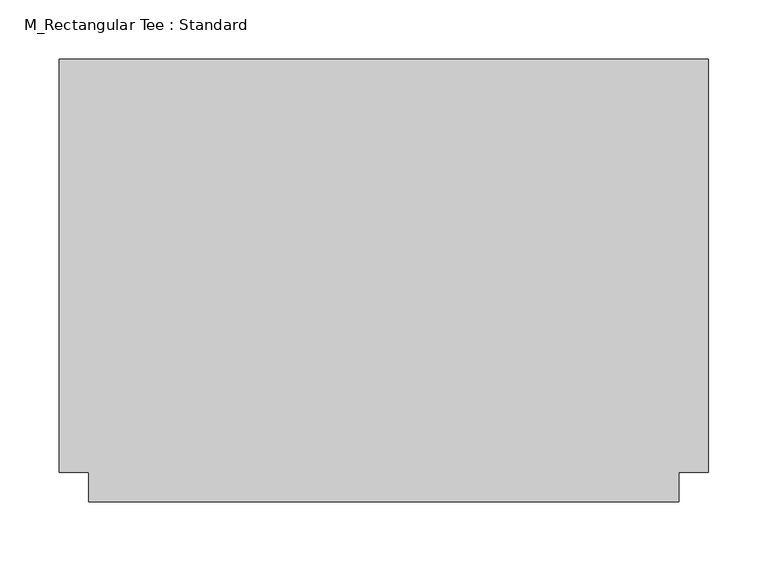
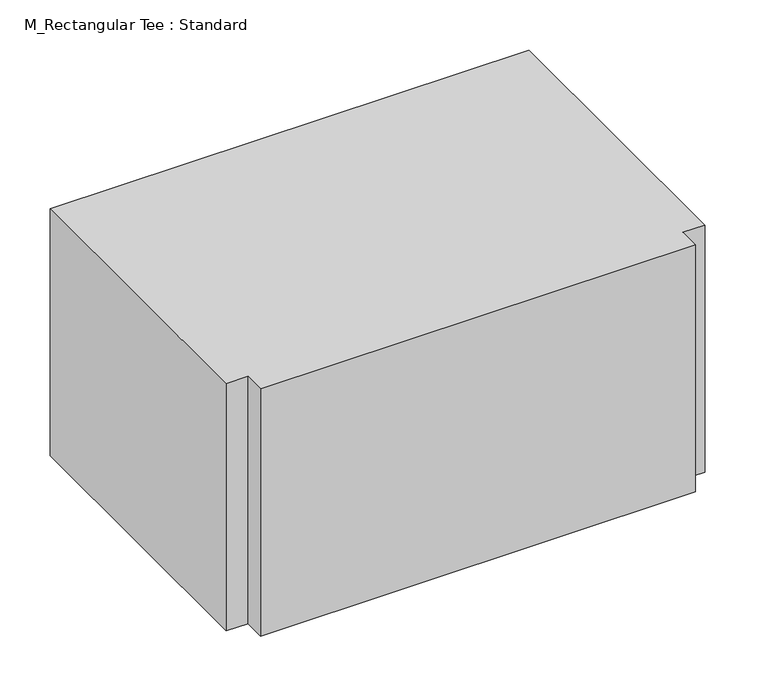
"""IFC4 building model written with IfcOpenShell, lengths in millimetres: duct fitting geometry, M_Rectangular Tee : Standard."""

from ifc_helpers import new_model, si_unit, frame, origin, place, context, project, spatial, polyline, outline, extrude, source, transform, mapped, element, save


def m_rectangular_tee_standard_9fc1ddf1(model_context):
    return source(origin(), model_context, "Body", "SweptSolid", [
        extrude(outline(polyline([(-275.0, -175.0), (-275.0, 175.0), (275.0, 175.0), (275.0, -175.0), (250.0, -175.0), (250.0, -200.0), (-250.0, -200.0), (-250.0, -175.0), (-275.0, -175.0)])), frame((0.0, 0.0, -150.0), z_axis=(0.0, 0.0, 1.0), x_axis=(1.0, 0.0, 0.0)), (0.0, 0.0, 1.0), 300.0),
    ])


if __name__ == "__main__":
    model = new_model("IFC4")
    model_context = context("Model", 3, world=origin())
    ifc_project = project(units=[si_unit("LENGTHUNIT", "METRE", prefix="MILLI")], contexts=[model_context])
    site = spatial("IfcSite", under=ifc_project)
    building = spatial("IfcBuilding", under=site)
    placement = place(None, origin())
    m_rectangular_tee_standard_shape = m_rectangular_tee_standard_9fc1ddf1(model_context)
    element("IfcDuctFitting", 1, ObjectType="M_Rectangular Tee : Standard", at=placement, inside=building, context=model_context, shape_type="MappedRepresentation", body=[
        mapped(m_rectangular_tee_standard_shape, transform((0.0, 0.0, 0.0), x_axis=(1.0, 0.0, 0.0), y_axis=(0.0, 1.0, 0.0), z_axis=(0.0, 0.0, 1.0))),
    ])
    save(model, "model.ifc")
